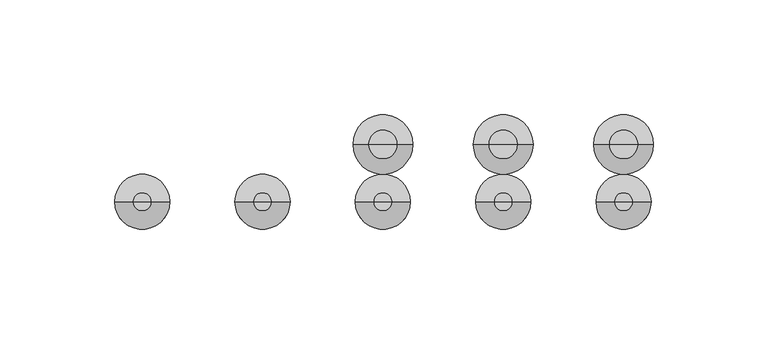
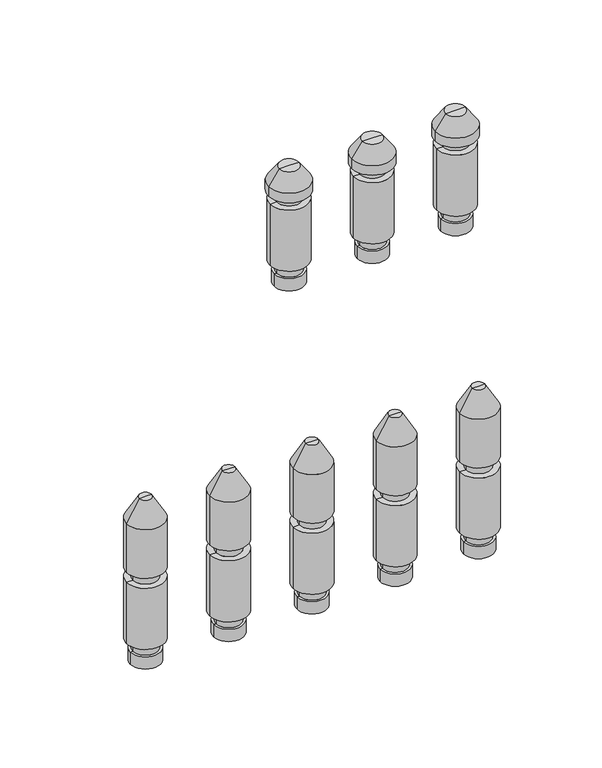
"""IFC4 building model written with IfcOpenShell, lengths in millimetres: valve geometry, PL AT_Manifold_FT-EV : 13 circuits."""

from ifc_helpers import new_model, si_unit, frame, origin, place, context, project, spatial, polyline, circle_curve, source, transform, mapped, element, save
from ifc_brep_helpers import plane_surface, cylinder_surface, revolved_surface, advanced_brep


def valve_cb73cf64(model_context):
    return source(origin(), model_context, "Body", "AdvancedBrep", [
        advanced_brep(
        [(610.0, 0.0, -35.11267), (629.0, 0.0, -35.11267), (619.5, 0.0, -35.11267), (610.0, 0.0, -27.0369646), (629.0, 0.0, -27.0369646), (611.5, 0.0, -27.0369646), (627.5, 0.0, -27.0369646), (611.5, 0.0, -20.330253), (627.5, 0.0, -20.330253), (607.5, 0.0, -20.330253), (631.5, 0.0, -20.330253), (607.5, 0.0, 20.330253), (631.5, 0.0, 20.330253), (611.5, 0.0, 20.330253), (627.5, 0.0, 20.330253), (611.5, 0.0, 27.0474786), (627.5, 0.0, 27.0474786), (607.5, 0.0, 27.0474786), (631.5, 0.0, 27.0474786), (607.5, 0.0, 59.4084325), (631.5, 0.0, 59.4084325), (615.5, 0.0, 73.264839), (623.5, 0.0, 73.264839), (619.5, 0.0, 73.264839)],
        [
            (0, 1, circle_curve(frame((619.5, 0.0, -35.11267), z_axis=(0.0, 0.0, -1.0), x_axis=(1.0, 0.0, 0.0)), 9.5)),
            (1, 2),
            (2, 0),
            (1, 0, circle_curve(frame((619.5, 0.0, -35.11267), z_axis=(0.0, 0.0, -1.0), x_axis=(1.0, 0.0, 0.0)), 9.5)),
            (3, 4, circle_curve(frame((619.5, 0.0, -27.0369646), z_axis=(0.0, 0.0, -1.0), x_axis=(1.0, 0.0, 0.0)), 9.5)),
            (4, 1),
            (0, 3),
            (4, 3, circle_curve(frame((619.5, 0.0, -27.0369646), z_axis=(0.0, 0.0, -1.0), x_axis=(1.0, 0.0, 0.0)), 9.5)),
            (5, 6, circle_curve(frame((619.5, 0.0, -27.0369646), z_axis=(0.0, 0.0, -1.0), x_axis=(1.0, 0.0, 0.0)), 8.0)),
            (6, 4),
            (3, 5),
            (6, 5, circle_curve(frame((619.5, 0.0, -27.0369646), z_axis=(0.0, 0.0, -1.0), x_axis=(1.0, 0.0, 0.0)), 8.0)),
            (7, 8, circle_curve(frame((619.5, 0.0, -20.330253), z_axis=(0.0, 0.0, -1.0), x_axis=(1.0, 0.0, 0.0)), 8.0)),
            (8, 6),
            (5, 7),
            (8, 7, circle_curve(frame((619.5, 0.0, -20.330253), z_axis=(0.0, 0.0, -1.0), x_axis=(1.0, 0.0, 0.0)), 8.0)),
            (9, 10, circle_curve(frame((619.5, 0.0, -20.330253), z_axis=(0.0, 0.0, -1.0), x_axis=(1.0, 0.0, 0.0)), 12.0)),
            (10, 8),
            (7, 9),
            (10, 9, circle_curve(frame((619.5, 0.0, -20.330253), z_axis=(0.0, 0.0, -1.0), x_axis=(1.0, 0.0, 0.0)), 12.0)),
            (11, 12, circle_curve(frame((619.5, 0.0, 20.330253), z_axis=(0.0, 0.0, -1.0), x_axis=(1.0, 0.0, 0.0)), 12.0)),
            (12, 10),
            (9, 11),
            (12, 11, circle_curve(frame((619.5, 0.0, 20.330253), z_axis=(0.0, 0.0, -1.0), x_axis=(1.0, 0.0, 0.0)), 12.0)),
            (13, 14, circle_curve(frame((619.5, 0.0, 20.330253), z_axis=(0.0, 0.0, -1.0), x_axis=(1.0, 0.0, 0.0)), 8.0)),
            (14, 12),
            (11, 13),
            (14, 13, circle_curve(frame((619.5, 0.0, 20.330253), z_axis=(0.0, 0.0, -1.0), x_axis=(1.0, 0.0, 0.0)), 8.0)),
            (15, 16, circle_curve(frame((619.5, 0.0, 27.0474786), z_axis=(0.0, 0.0, -1.0), x_axis=(1.0, 0.0, 0.0)), 8.0)),
            (16, 14),
            (13, 15),
            (16, 15, circle_curve(frame((619.5, 0.0, 27.0474786), z_axis=(0.0, 0.0, -1.0), x_axis=(1.0, 0.0, 0.0)), 8.0)),
            (17, 18, circle_curve(frame((619.5, 0.0, 27.0474786), z_axis=(0.0, 0.0, -1.0), x_axis=(1.0, 0.0, 0.0)), 12.0)),
            (18, 16),
            (15, 17),
            (18, 17, circle_curve(frame((619.5, 0.0, 27.0474786), z_axis=(0.0, 0.0, -1.0), x_axis=(1.0, 0.0, 0.0)), 12.0)),
            (19, 20, circle_curve(frame((619.5, 0.0, 59.4084325), z_axis=(0.0, 0.0, -1.0), x_axis=(1.0, 0.0, 0.0)), 12.0)),
            (20, 18),
            (17, 19),
            (20, 19, circle_curve(frame((619.5, 0.0, 59.4084325), z_axis=(0.0, 0.0, -1.0), x_axis=(1.0, 0.0, 0.0)), 12.0)),
            (21, 22, circle_curve(frame((619.5, 0.0, 73.264839), z_axis=(0.0, 0.0, -1.0), x_axis=(1.0, 0.0, 0.0)), 4.0)),
            (22, 20),
            (19, 21),
            (22, 21, circle_curve(frame((619.5, 0.0, 73.264839), z_axis=(0.0, 0.0, -1.0), x_axis=(1.0, 0.0, 0.0)), 4.0)),
            (23, 22),
            (21, 23),
        ],
        [
            plane_surface(frame((619.5, 0.0, -35.11267), z_axis=(0.0, 0.0, -1.0), x_axis=(1.0, 0.0, 0.0))),
            cylinder_surface(frame((619.5, 0.0, 58.264839), z_axis=(0.0, 0.0, 1.0), x_axis=(1.0, 0.0, 0.0)), 9.5),
            plane_surface(frame((619.5, 0.0, -27.0369646), z_axis=(0.0, 0.0, 1.0), x_axis=(1.0, 0.0, 0.0))),
            cylinder_surface(frame((619.5, 0.0, 58.264839), z_axis=(0.0, 0.0, 1.0), x_axis=(1.0, 0.0, 0.0)), 8.0),
            plane_surface(frame((619.5, 0.0, -20.330253), z_axis=(0.0, 0.0, -1.0), x_axis=(1.0, 0.0, 0.0))),
            cylinder_surface(frame((619.5, 0.0, 58.264839), z_axis=(0.0, 0.0, 1.0), x_axis=(1.0, 0.0, 0.0)), 12.0),
            plane_surface(frame((619.5, 0.0, 20.330253), z_axis=(0.0, 0.0, 1.0), x_axis=(1.0, 0.0, 0.0))),
            plane_surface(frame((619.5, 0.0, 27.0474786), z_axis=(0.0, 0.0, -1.0), x_axis=(1.0, 0.0, 0.0))),
            revolved_surface(polyline([(631.5, 0.0, 59.4084325), (623.5, 0.0, 73.264839)]), (619.5, 0.0, 58.264839), (0.0, 0.0, 1.0)),
            plane_surface(frame((619.5, 0.0, 73.264839), z_axis=(0.0, 0.0, 1.0), x_axis=(1.0, 0.0, 0.0))),
        ],
        [
            (0, [[1, 2, 3]]),
            (0, [[4, -3, -2]]),
            (1, [[5, 6, -1, 7]]),
            (1, [[8, -7, -4, -6]]),
            (2, [[9, 10, -5, 11]]),
            (2, [[12, -11, -8, -10]]),
            (3, [[13, 14, -9, 15]]),
            (3, [[16, -15, -12, -14]]),
            (4, [[17, 18, -13, 19]]),
            (4, [[20, -19, -16, -18]]),
            (5, [[21, 22, -17, 23]]),
            (5, [[24, -23, -20, -22]]),
            (6, [[25, 26, -21, 27]]),
            (6, [[28, -27, -24, -26]]),
            (3, [[29, 30, -25, 31]]),
            (3, [[32, -31, -28, -30]]),
            (7, [[33, 34, -29, 35]]),
            (7, [[36, -35, -32, -34]]),
            (5, [[37, 38, -33, 39]]),
            (5, [[40, -39, -36, -38]]),
            (8, [[41, 42, -37, 43]]),
            (8, [[44, -43, -40, -42]]),
            (9, [[45, -41, 46]]),
            (9, [[-46, -44, -45]]),
        ],
    ),
        advanced_brep(
        [(557.5, 0.0, -35.11267), (576.5, 0.0, -35.11267), (567.0, 0.0, -35.11267), (557.5, 0.0, -27.0369646), (576.5, 0.0, -27.0369646), (559.0, 0.0, -27.0369646), (575.0, 0.0, -27.0369646), (559.0, 0.0, -20.330253), (575.0, 0.0, -20.330253), (555.0, 0.0, -20.330253), (579.0, 0.0, -20.330253), (555.0, 0.0, 20.330253), (579.0, 0.0, 20.330253), (559.0, 0.0, 20.330253), (575.0, 0.0, 20.330253), (559.0, 0.0, 27.0474786), (575.0, 0.0, 27.0474786), (555.0, 0.0, 27.0474786), (579.0, 0.0, 27.0474786), (555.0, 0.0, 59.4084325), (579.0, 0.0, 59.4084325), (563.0, 0.0, 73.264839), (571.0, 0.0, 73.264839), (567.0, 0.0, 73.264839)],
        [
            (0, 1, circle_curve(frame((567.0, 0.0, -35.11267), z_axis=(0.0, 0.0, -1.0), x_axis=(1.0, 0.0, 0.0)), 9.5)),
            (1, 2),
            (2, 0),
            (1, 0, circle_curve(frame((567.0, 0.0, -35.11267), z_axis=(0.0, 0.0, -1.0), x_axis=(1.0, 0.0, 0.0)), 9.5)),
            (3, 4, circle_curve(frame((567.0, 0.0, -27.0369646), z_axis=(0.0, 0.0, -1.0), x_axis=(1.0, 0.0, 0.0)), 9.5)),
            (4, 1),
            (0, 3),
            (4, 3, circle_curve(frame((567.0, 0.0, -27.0369646), z_axis=(0.0, 0.0, -1.0), x_axis=(1.0, 0.0, 0.0)), 9.5)),
            (5, 6, circle_curve(frame((567.0, 0.0, -27.0369646), z_axis=(0.0, 0.0, -1.0), x_axis=(1.0, 0.0, 0.0)), 8.0)),
            (6, 4),
            (3, 5),
            (6, 5, circle_curve(frame((567.0, 0.0, -27.0369646), z_axis=(0.0, 0.0, -1.0), x_axis=(1.0, 0.0, 0.0)), 8.0)),
            (7, 8, circle_curve(frame((567.0, 0.0, -20.330253), z_axis=(0.0, 0.0, -1.0), x_axis=(1.0, 0.0, 0.0)), 8.0)),
            (8, 6),
            (5, 7),
            (8, 7, circle_curve(frame((567.0, 0.0, -20.330253), z_axis=(0.0, 0.0, -1.0), x_axis=(1.0, 0.0, 0.0)), 8.0)),
            (9, 10, circle_curve(frame((567.0, 0.0, -20.330253), z_axis=(0.0, 0.0, -1.0), x_axis=(1.0, 0.0, 0.0)), 12.0)),
            (10, 8),
            (7, 9),
            (10, 9, circle_curve(frame((567.0, 0.0, -20.330253), z_axis=(0.0, 0.0, -1.0), x_axis=(1.0, 0.0, 0.0)), 12.0)),
            (11, 12, circle_curve(frame((567.0, 0.0, 20.330253), z_axis=(0.0, 0.0, -1.0), x_axis=(1.0, 0.0, 0.0)), 12.0)),
            (12, 10),
            (9, 11),
            (12, 11, circle_curve(frame((567.0, 0.0, 20.330253), z_axis=(0.0, 0.0, -1.0), x_axis=(1.0, 0.0, 0.0)), 12.0)),
            (13, 14, circle_curve(frame((567.0, 0.0, 20.330253), z_axis=(0.0, 0.0, -1.0), x_axis=(1.0, 0.0, 0.0)), 8.0)),
            (14, 12),
            (11, 13),
            (14, 13, circle_curve(frame((567.0, 0.0, 20.330253), z_axis=(0.0, 0.0, -1.0), x_axis=(1.0, 0.0, 0.0)), 8.0)),
            (15, 16, circle_curve(frame((567.0, 0.0, 27.0474786), z_axis=(0.0, 0.0, -1.0), x_axis=(1.0, 0.0, 0.0)), 8.0)),
            (16, 14),
            (13, 15),
            (16, 15, circle_curve(frame((567.0, 0.0, 27.0474786), z_axis=(0.0, 0.0, -1.0), x_axis=(1.0, 0.0, 0.0)), 8.0)),
            (17, 18, circle_curve(frame((567.0, 0.0, 27.0474786), z_axis=(0.0, 0.0, -1.0), x_axis=(1.0, 0.0, 0.0)), 12.0)),
            (18, 16),
            (15, 17),
            (18, 17, circle_curve(frame((567.0, 0.0, 27.0474786), z_axis=(0.0, 0.0, -1.0), x_axis=(1.0, 0.0, 0.0)), 12.0)),
            (19, 20, circle_curve(frame((567.0, 0.0, 59.4084325), z_axis=(0.0, 0.0, -1.0), x_axis=(1.0, 0.0, 0.0)), 12.0)),
            (20, 18),
            (17, 19),
            (20, 19, circle_curve(frame((567.0, 0.0, 59.4084325), z_axis=(0.0, 0.0, -1.0), x_axis=(1.0, 0.0, 0.0)), 12.0)),
            (21, 22, circle_curve(frame((567.0, 0.0, 73.264839), z_axis=(0.0, 0.0, -1.0), x_axis=(1.0, 0.0, 0.0)), 4.0)),
            (22, 20),
            (19, 21),
            (22, 21, circle_curve(frame((567.0, 0.0, 73.264839), z_axis=(0.0, 0.0, -1.0), x_axis=(1.0, 0.0, 0.0)), 4.0)),
            (23, 22),
            (21, 23),
        ],
        [
            plane_surface(frame((567.0, 0.0, -35.11267), z_axis=(0.0, 0.0, -1.0), x_axis=(1.0, 0.0, 0.0))),
            cylinder_surface(frame((567.0, 0.0, 58.264839), z_axis=(0.0, 0.0, 1.0), x_axis=(1.0, 0.0, 0.0)), 9.5),
            plane_surface(frame((567.0, 0.0, -27.0369646), z_axis=(0.0, 0.0, 1.0), x_axis=(1.0, 0.0, 0.0))),
            cylinder_surface(frame((567.0, 0.0, 58.264839), z_axis=(0.0, 0.0, 1.0), x_axis=(1.0, 0.0, 0.0)), 8.0),
            plane_surface(frame((567.0, 0.0, -20.330253), z_axis=(0.0, 0.0, -1.0), x_axis=(1.0, 0.0, 0.0))),
            cylinder_surface(frame((567.0, 0.0, 58.264839), z_axis=(0.0, 0.0, 1.0), x_axis=(1.0, 0.0, 0.0)), 12.0),
            plane_surface(frame((567.0, 0.0, 20.330253), z_axis=(0.0, 0.0, 1.0), x_axis=(1.0, 0.0, 0.0))),
            plane_surface(frame((567.0, 0.0, 27.0474786), z_axis=(0.0, 0.0, -1.0), x_axis=(1.0, 0.0, 0.0))),
            revolved_surface(polyline([(579.0, 0.0, 59.4084325), (571.0, 0.0, 73.264839)]), (567.0, 0.0, 58.264839), (0.0, 0.0, 1.0)),
            plane_surface(frame((567.0, 0.0, 73.264839), z_axis=(0.0, 0.0, 1.0), x_axis=(1.0, 0.0, 0.0))),
        ],
        [
            (0, [[1, 2, 3]]),
            (0, [[4, -3, -2]]),
            (1, [[5, 6, -1, 7]]),
            (1, [[8, -7, -4, -6]]),
            (2, [[9, 10, -5, 11]]),
            (2, [[12, -11, -8, -10]]),
            (3, [[13, 14, -9, 15]]),
            (3, [[16, -15, -12, -14]]),
            (4, [[17, 18, -13, 19]]),
            (4, [[20, -19, -16, -18]]),
            (5, [[21, 22, -17, 23]]),
            (5, [[24, -23, -20, -22]]),
            (6, [[25, 26, -21, 27]]),
            (6, [[28, -27, -24, -26]]),
            (3, [[29, 30, -25, 31]]),
            (3, [[32, -31, -28, -30]]),
            (7, [[33, 34, -29, 35]]),
            (7, [[36, -35, -32, -34]]),
            (5, [[37, 38, -33, 39]]),
            (5, [[40, -39, -36, -38]]),
            (8, [[41, 42, -37, 43]]),
            (8, [[44, -43, -40, -42]]),
            (9, [[45, -41, 46]]),
            (9, [[-46, -44, -45]]),
        ],
    ),
        advanced_brep(
        [(505.0, 0.0, -35.11267), (524.0, 0.0, -35.11267), (514.5, 0.0, -35.11267), (505.0, 0.0, -27.0369646), (524.0, 0.0, -27.0369646), (506.5, 0.0, -27.0369646), (522.5, 0.0, -27.0369646), (506.5, 0.0, -20.330253), (522.5, 0.0, -20.330253), (502.5, 0.0, -20.330253), (526.5, 0.0, -20.330253), (502.5, 0.0, 20.330253), (526.5, 0.0, 20.330253), (506.5, 0.0, 20.330253), (522.5, 0.0, 20.330253), (506.5, 0.0, 27.0474786), (522.5, 0.0, 27.0474786), (502.5, 0.0, 27.0474786), (526.5, 0.0, 27.0474786), (502.5, 0.0, 59.4084325), (526.5, 0.0, 59.4084325), (510.5, 0.0, 73.264839), (518.5, 0.0, 73.264839), (514.5, 0.0, 73.264839)],
        [
            (0, 1, circle_curve(frame((514.5, 0.0, -35.11267), z_axis=(0.0, 0.0, -1.0), x_axis=(1.0, 0.0, 0.0)), 9.5)),
            (1, 2),
            (2, 0),
            (1, 0, circle_curve(frame((514.5, 0.0, -35.11267), z_axis=(0.0, 0.0, -1.0), x_axis=(1.0, 0.0, 0.0)), 9.5)),
            (3, 4, circle_curve(frame((514.5, 0.0, -27.0369646), z_axis=(0.0, 0.0, -1.0), x_axis=(1.0, 0.0, 0.0)), 9.5)),
            (4, 1),
            (0, 3),
            (4, 3, circle_curve(frame((514.5, 0.0, -27.0369646), z_axis=(0.0, 0.0, -1.0), x_axis=(1.0, 0.0, 0.0)), 9.5)),
            (5, 6, circle_curve(frame((514.5, 0.0, -27.0369646), z_axis=(0.0, 0.0, -1.0), x_axis=(1.0, 0.0, 0.0)), 8.0)),
            (6, 4),
            (3, 5),
            (6, 5, circle_curve(frame((514.5, 0.0, -27.0369646), z_axis=(0.0, 0.0, -1.0), x_axis=(1.0, 0.0, 0.0)), 8.0)),
            (7, 8, circle_curve(frame((514.5, 0.0, -20.330253), z_axis=(0.0, 0.0, -1.0), x_axis=(1.0, 0.0, 0.0)), 8.0)),
            (8, 6),
            (5, 7),
            (8, 7, circle_curve(frame((514.5, 0.0, -20.330253), z_axis=(0.0, 0.0, -1.0), x_axis=(1.0, 0.0, 0.0)), 8.0)),
            (9, 10, circle_curve(frame((514.5, 0.0, -20.330253), z_axis=(0.0, 0.0, -1.0), x_axis=(1.0, 0.0, 0.0)), 12.0)),
            (10, 8),
            (7, 9),
            (10, 9, circle_curve(frame((514.5, 0.0, -20.330253), z_axis=(0.0, 0.0, -1.0), x_axis=(1.0, 0.0, 0.0)), 12.0)),
            (11, 12, circle_curve(frame((514.5, 0.0, 20.330253), z_axis=(0.0, 0.0, -1.0), x_axis=(1.0, 0.0, 0.0)), 12.0)),
            (12, 10),
            (9, 11),
            (12, 11, circle_curve(frame((514.5, 0.0, 20.330253), z_axis=(0.0, 0.0, -1.0), x_axis=(1.0, 0.0, 0.0)), 12.0)),
            (13, 14, circle_curve(frame((514.5, 0.0, 20.330253), z_axis=(0.0, 0.0, -1.0), x_axis=(1.0, 0.0, 0.0)), 8.0)),
            (14, 12),
            (11, 13),
            (14, 13, circle_curve(frame((514.5, 0.0, 20.330253), z_axis=(0.0, 0.0, -1.0), x_axis=(1.0, 0.0, 0.0)), 8.0)),
            (15, 16, circle_curve(frame((514.5, 0.0, 27.0474786), z_axis=(0.0, 0.0, -1.0), x_axis=(1.0, 0.0, 0.0)), 8.0)),
            (16, 14),
            (13, 15),
            (16, 15, circle_curve(frame((514.5, 0.0, 27.0474786), z_axis=(0.0, 0.0, -1.0), x_axis=(1.0, 0.0, 0.0)), 8.0)),
            (17, 18, circle_curve(frame((514.5, 0.0, 27.0474786), z_axis=(0.0, 0.0, -1.0), x_axis=(1.0, 0.0, 0.0)), 12.0)),
            (18, 16),
            (15, 17),
            (18, 17, circle_curve(frame((514.5, 0.0, 27.0474786), z_axis=(0.0, 0.0, -1.0), x_axis=(1.0, 0.0, 0.0)), 12.0)),
            (19, 20, circle_curve(frame((514.5, 0.0, 59.4084325), z_axis=(0.0, 0.0, -1.0), x_axis=(1.0, 0.0, 0.0)), 12.0)),
            (20, 18),
            (17, 19),
            (20, 19, circle_curve(frame((514.5, 0.0, 59.4084325), z_axis=(0.0, 0.0, -1.0), x_axis=(1.0, 0.0, 0.0)), 12.0)),
            (21, 22, circle_curve(frame((514.5, 0.0, 73.264839), z_axis=(0.0, 0.0, -1.0), x_axis=(1.0, 0.0, 0.0)), 4.0)),
            (22, 20),
            (19, 21),
            (22, 21, circle_curve(frame((514.5, 0.0, 73.264839), z_axis=(0.0, 0.0, -1.0), x_axis=(1.0, 0.0, 0.0)), 4.0)),
            (23, 22),
            (21, 23),
        ],
        [
            plane_surface(frame((514.5, 0.0, -35.11267), z_axis=(0.0, 0.0, -1.0), x_axis=(1.0, 0.0, 0.0))),
            cylinder_surface(frame((514.5, 0.0, 58.264839), z_axis=(0.0, 0.0, 1.0), x_axis=(1.0, 0.0, 0.0)), 9.5),
            plane_surface(frame((514.5, 0.0, -27.0369646), z_axis=(0.0, 0.0, 1.0), x_axis=(1.0, 0.0, 0.0))),
            cylinder_surface(frame((514.5, 0.0, 58.264839), z_axis=(0.0, 0.0, 1.0), x_axis=(1.0, 0.0, 0.0)), 8.0),
            plane_surface(frame((514.5, 0.0, -20.330253), z_axis=(0.0, 0.0, -1.0), x_axis=(1.0, 0.0, 0.0))),
            cylinder_surface(frame((514.5, 0.0, 58.264839), z_axis=(0.0, 0.0, 1.0), x_axis=(1.0, 0.0, 0.0)), 12.0),
            plane_surface(frame((514.5, 0.0, 20.330253), z_axis=(0.0, 0.0, 1.0), x_axis=(1.0, 0.0, 0.0))),
            plane_surface(frame((514.5, 0.0, 27.0474786), z_axis=(0.0, 0.0, -1.0), x_axis=(1.0, 0.0, 0.0))),
            revolved_surface(polyline([(526.5, 0.0, 59.4084325), (518.5, 0.0, 73.264839)]), (514.5, 0.0, 58.264839), (0.0, 0.0, 1.0)),
            plane_surface(frame((514.5, 0.0, 73.264839), z_axis=(0.0, 0.0, 1.0), x_axis=(1.0, 0.0, 0.0))),
        ],
        [
            (0, [[1, 2, 3]]),
            (0, [[4, -3, -2]]),
            (1, [[5, 6, -1, 7]]),
            (1, [[8, -7, -4, -6]]),
            (2, [[9, 10, -5, 11]]),
            (2, [[12, -11, -8, -10]]),
            (3, [[13, 14, -9, 15]]),
            (3, [[16, -15, -12, -14]]),
            (4, [[17, 18, -13, 19]]),
            (4, [[20, -19, -16, -18]]),
            (5, [[21, 22, -17, 23]]),
            (5, [[24, -23, -20, -22]]),
            (6, [[25, 26, -21, 27]]),
            (6, [[28, -27, -24, -26]]),
            (3, [[29, 30, -25, 31]]),
            (3, [[32, -31, -28, -30]]),
            (7, [[33, 34, -29, 35]]),
            (7, [[36, -35, -32, -34]]),
            (5, [[37, 38, -33, 39]]),
            (5, [[40, -39, -36, -38]]),
            (8, [[41, 42, -37, 43]]),
            (8, [[44, -43, -40, -42]]),
            (9, [[45, -41, 46]]),
            (9, [[-46, -44, -45]]),
        ],
    ),
        advanced_brep(
        [(452.5, 0.0, -35.11267), (471.5, 0.0, -35.11267), (462.0, 0.0, -35.11267), (452.5, 0.0, -27.0369646), (471.5, 0.0, -27.0369646), (454.0, 0.0, -27.0369646), (470.0, 0.0, -27.0369646), (454.0, 0.0, -20.330253), (470.0, 0.0, -20.330253), (450.0, 0.0, -20.330253), (474.0, 0.0, -20.330253), (450.0, 0.0, 20.330253), (474.0, 0.0, 20.330253), (454.0, 0.0, 20.330253), (470.0, 0.0, 20.330253), (454.0, 0.0, 27.0474786), (470.0, 0.0, 27.0474786), (450.0, 0.0, 27.0474786), (474.0, 0.0, 27.0474786), (450.0, 0.0, 59.4084325), (474.0, 0.0, 59.4084325), (458.0, 0.0, 73.264839), (466.0, 0.0, 73.264839), (462.0, 0.0, 73.264839)],
        [
            (0, 1, circle_curve(frame((462.0, 0.0, -35.11267), z_axis=(0.0, 0.0, -1.0), x_axis=(1.0, 0.0, 0.0)), 9.5)),
            (1, 2),
            (2, 0),
            (1, 0, circle_curve(frame((462.0, 0.0, -35.11267), z_axis=(0.0, 0.0, -1.0), x_axis=(1.0, 0.0, 0.0)), 9.5)),
            (3, 4, circle_curve(frame((462.0, 0.0, -27.0369646), z_axis=(0.0, 0.0, -1.0), x_axis=(1.0, 0.0, 0.0)), 9.5)),
            (4, 1),
            (0, 3),
            (4, 3, circle_curve(frame((462.0, 0.0, -27.0369646), z_axis=(0.0, 0.0, -1.0), x_axis=(1.0, 0.0, 0.0)), 9.5)),
            (5, 6, circle_curve(frame((462.0, 0.0, -27.0369646), z_axis=(0.0, 0.0, -1.0), x_axis=(1.0, 0.0, 0.0)), 8.0)),
            (6, 4),
            (3, 5),
            (6, 5, circle_curve(frame((462.0, 0.0, -27.0369646), z_axis=(0.0, 0.0, -1.0), x_axis=(1.0, 0.0, 0.0)), 8.0)),
            (7, 8, circle_curve(frame((462.0, 0.0, -20.330253), z_axis=(0.0, 0.0, -1.0), x_axis=(1.0, 0.0, 0.0)), 8.0)),
            (8, 6),
            (5, 7),
            (8, 7, circle_curve(frame((462.0, 0.0, -20.330253), z_axis=(0.0, 0.0, -1.0), x_axis=(1.0, 0.0, 0.0)), 8.0)),
            (9, 10, circle_curve(frame((462.0, 0.0, -20.330253), z_axis=(0.0, 0.0, -1.0), x_axis=(1.0, 0.0, 0.0)), 12.0)),
            (10, 8),
            (7, 9),
            (10, 9, circle_curve(frame((462.0, 0.0, -20.330253), z_axis=(0.0, 0.0, -1.0), x_axis=(1.0, 0.0, 0.0)), 12.0)),
            (11, 12, circle_curve(frame((462.0, 0.0, 20.330253), z_axis=(0.0, 0.0, -1.0), x_axis=(1.0, 0.0, 0.0)), 12.0)),
            (12, 10),
            (9, 11),
            (12, 11, circle_curve(frame((462.0, 0.0, 20.330253), z_axis=(0.0, 0.0, -1.0), x_axis=(1.0, 0.0, 0.0)), 12.0)),
            (13, 14, circle_curve(frame((462.0, 0.0, 20.330253), z_axis=(0.0, 0.0, -1.0), x_axis=(1.0, 0.0, 0.0)), 8.0)),
            (14, 12),
            (11, 13),
            (14, 13, circle_curve(frame((462.0, 0.0, 20.330253), z_axis=(0.0, 0.0, -1.0), x_axis=(1.0, 0.0, 0.0)), 8.0)),
            (15, 16, circle_curve(frame((462.0, 0.0, 27.0474786), z_axis=(0.0, 0.0, -1.0), x_axis=(1.0, 0.0, 0.0)), 8.0)),
            (16, 14),
            (13, 15),
            (16, 15, circle_curve(frame((462.0, 0.0, 27.0474786), z_axis=(0.0, 0.0, -1.0), x_axis=(1.0, 0.0, 0.0)), 8.0)),
            (17, 18, circle_curve(frame((462.0, 0.0, 27.0474786), z_axis=(0.0, 0.0, -1.0), x_axis=(1.0, 0.0, 0.0)), 12.0)),
            (18, 16),
            (15, 17),
            (18, 17, circle_curve(frame((462.0, 0.0, 27.0474786), z_axis=(0.0, 0.0, -1.0), x_axis=(1.0, 0.0, 0.0)), 12.0)),
            (19, 20, circle_curve(frame((462.0, 0.0, 59.4084325), z_axis=(0.0, 0.0, -1.0), x_axis=(1.0, 0.0, 0.0)), 12.0)),
            (20, 18),
            (17, 19),
            (20, 19, circle_curve(frame((462.0, 0.0, 59.4084325), z_axis=(0.0, 0.0, -1.0), x_axis=(1.0, 0.0, 0.0)), 12.0)),
            (21, 22, circle_curve(frame((462.0, 0.0, 73.264839), z_axis=(0.0, 0.0, -1.0), x_axis=(1.0, 0.0, 0.0)), 4.0)),
            (22, 20),
            (19, 21),
            (22, 21, circle_curve(frame((462.0, 0.0, 73.264839), z_axis=(0.0, 0.0, -1.0), x_axis=(1.0, 0.0, 0.0)), 4.0)),
            (23, 22),
            (21, 23),
        ],
        [
            plane_surface(frame((462.0, 0.0, -35.11267), z_axis=(0.0, 0.0, -1.0), x_axis=(1.0, 0.0, 0.0))),
            cylinder_surface(frame((462.0, 0.0, 58.264839), z_axis=(0.0, 0.0, 1.0), x_axis=(1.0, 0.0, 0.0)), 9.5),
            plane_surface(frame((462.0, 0.0, -27.0369646), z_axis=(0.0, 0.0, 1.0), x_axis=(1.0, 0.0, 0.0))),
            cylinder_surface(frame((462.0, 0.0, 58.264839), z_axis=(0.0, 0.0, 1.0), x_axis=(1.0, 0.0, 0.0)), 8.0),
            plane_surface(frame((462.0, 0.0, -20.330253), z_axis=(0.0, 0.0, -1.0), x_axis=(1.0, 0.0, 0.0))),
            cylinder_surface(frame((462.0, 0.0, 58.264839), z_axis=(0.0, 0.0, 1.0), x_axis=(1.0, 0.0, 0.0)), 12.0),
            plane_surface(frame((462.0, 0.0, 20.330253), z_axis=(0.0, 0.0, 1.0), x_axis=(1.0, 0.0, 0.0))),
            plane_surface(frame((462.0, 0.0, 27.0474786), z_axis=(0.0, 0.0, -1.0), x_axis=(1.0, 0.0, 0.0))),
            revolved_surface(polyline([(474.0, 0.0, 59.4084325), (466.0, 0.0, 73.264839)]), (462.0, 0.0, 58.264839), (0.0, 0.0, 1.0)),
            plane_surface(frame((462.0, 0.0, 73.264839), z_axis=(0.0, 0.0, 1.0), x_axis=(1.0, 0.0, 0.0))),
        ],
        [
            (0, [[1, 2, 3]]),
            (0, [[4, -3, -2]]),
            (1, [[5, 6, -1, 7]]),
            (1, [[8, -7, -4, -6]]),
            (2, [[9, 10, -5, 11]]),
            (2, [[12, -11, -8, -10]]),
            (3, [[13, 14, -9, 15]]),
            (3, [[16, -15, -12, -14]]),
            (4, [[17, 18, -13, 19]]),
            (4, [[20, -19, -16, -18]]),
            (5, [[21, 22, -17, 23]]),
            (5, [[24, -23, -20, -22]]),
            (6, [[25, 26, -21, 27]]),
            (6, [[28, -27, -24, -26]]),
            (3, [[29, 30, -25, 31]]),
            (3, [[32, -31, -28, -30]]),
            (7, [[33, 34, -29, 35]]),
            (7, [[36, -35, -32, -34]]),
            (5, [[37, 38, -33, 39]]),
            (5, [[40, -39, -36, -38]]),
            (8, [[41, 42, -37, 43]]),
            (8, [[44, -43, -40, -42]]),
            (9, [[45, -41, 46]]),
            (9, [[-46, -44, -45]]),
        ],
    ),
        advanced_brep(
        [(400.0, 0.0, -35.11267), (419.0, 0.0, -35.11267), (409.5, 0.0, -35.11267), (400.0, 0.0, -27.0369646), (419.0, 0.0, -27.0369646), (401.5, 0.0, -27.0369646), (417.5, 0.0, -27.0369646), (401.5, 0.0, -20.330253), (417.5, 0.0, -20.330253), (397.5, 0.0, -20.330253), (421.5, 0.0, -20.330253), (397.5, 0.0, 20.330253), (421.5, 0.0, 20.330253), (401.5, 0.0, 20.330253), (417.5, 0.0, 20.330253), (401.5, 0.0, 27.0474786), (417.5, 0.0, 27.0474786), (397.5, 0.0, 27.0474786), (421.5, 0.0, 27.0474786), (397.5, 0.0, 59.4084325), (421.5, 0.0, 59.4084325), (405.5, 0.0, 73.264839), (413.5, 0.0, 73.264839), (409.5, 0.0, 73.264839)],
        [
            (0, 1, circle_curve(frame((409.5, 0.0, -35.11267), z_axis=(0.0, 0.0, -1.0), x_axis=(1.0, 0.0, 0.0)), 9.5)),
            (1, 2),
            (2, 0),
            (1, 0, circle_curve(frame((409.5, 0.0, -35.11267), z_axis=(0.0, 0.0, -1.0), x_axis=(1.0, 0.0, 0.0)), 9.5)),
            (3, 4, circle_curve(frame((409.5, 0.0, -27.0369646), z_axis=(0.0, 0.0, -1.0), x_axis=(1.0, 0.0, 0.0)), 9.5)),
            (4, 1),
            (0, 3),
            (4, 3, circle_curve(frame((409.5, 0.0, -27.0369646), z_axis=(0.0, 0.0, -1.0), x_axis=(1.0, 0.0, 0.0)), 9.5)),
            (5, 6, circle_curve(frame((409.5, 0.0, -27.0369646), z_axis=(0.0, 0.0, -1.0), x_axis=(1.0, 0.0, 0.0)), 8.0)),
            (6, 4),
            (3, 5),
            (6, 5, circle_curve(frame((409.5, 0.0, -27.0369646), z_axis=(0.0, 0.0, -1.0), x_axis=(1.0, 0.0, 0.0)), 8.0)),
            (7, 8, circle_curve(frame((409.5, 0.0, -20.330253), z_axis=(0.0, 0.0, -1.0), x_axis=(1.0, 0.0, 0.0)), 8.0)),
            (8, 6),
            (5, 7),
            (8, 7, circle_curve(frame((409.5, 0.0, -20.330253), z_axis=(0.0, 0.0, -1.0), x_axis=(1.0, 0.0, 0.0)), 8.0)),
            (9, 10, circle_curve(frame((409.5, 0.0, -20.330253), z_axis=(0.0, 0.0, -1.0), x_axis=(1.0, 0.0, 0.0)), 12.0)),
            (10, 8),
            (7, 9),
            (10, 9, circle_curve(frame((409.5, 0.0, -20.330253), z_axis=(0.0, 0.0, -1.0), x_axis=(1.0, 0.0, 0.0)), 12.0)),
            (11, 12, circle_curve(frame((409.5, 0.0, 20.330253), z_axis=(0.0, 0.0, -1.0), x_axis=(1.0, 0.0, 0.0)), 12.0)),
            (12, 10),
            (9, 11),
            (12, 11, circle_curve(frame((409.5, 0.0, 20.330253), z_axis=(0.0, 0.0, -1.0), x_axis=(1.0, 0.0, 0.0)), 12.0)),
            (13, 14, circle_curve(frame((409.5, 0.0, 20.330253), z_axis=(0.0, 0.0, -1.0), x_axis=(1.0, 0.0, 0.0)), 8.0)),
            (14, 12),
            (11, 13),
            (14, 13, circle_curve(frame((409.5, 0.0, 20.330253), z_axis=(0.0, 0.0, -1.0), x_axis=(1.0, 0.0, 0.0)), 8.0)),
            (15, 16, circle_curve(frame((409.5, 0.0, 27.0474786), z_axis=(0.0, 0.0, -1.0), x_axis=(1.0, 0.0, 0.0)), 8.0)),
            (16, 14),
            (13, 15),
            (16, 15, circle_curve(frame((409.5, 0.0, 27.0474786), z_axis=(0.0, 0.0, -1.0), x_axis=(1.0, 0.0, 0.0)), 8.0)),
            (17, 18, circle_curve(frame((409.5, 0.0, 27.0474786), z_axis=(0.0, 0.0, -1.0), x_axis=(1.0, 0.0, 0.0)), 12.0)),
            (18, 16),
            (15, 17),
            (18, 17, circle_curve(frame((409.5, 0.0, 27.0474786), z_axis=(0.0, 0.0, -1.0), x_axis=(1.0, 0.0, 0.0)), 12.0)),
            (19, 20, circle_curve(frame((409.5, 0.0, 59.4084325), z_axis=(0.0, 0.0, -1.0), x_axis=(1.0, 0.0, 0.0)), 12.0)),
            (20, 18),
            (17, 19),
            (20, 19, circle_curve(frame((409.5, 0.0, 59.4084325), z_axis=(0.0, 0.0, -1.0), x_axis=(1.0, 0.0, 0.0)), 12.0)),
            (21, 22, circle_curve(frame((409.5, 0.0, 73.264839), z_axis=(0.0, 0.0, -1.0), x_axis=(1.0, 0.0, 0.0)), 4.0)),
            (22, 20),
            (19, 21),
            (22, 21, circle_curve(frame((409.5, 0.0, 73.264839), z_axis=(0.0, 0.0, -1.0), x_axis=(1.0, 0.0, 0.0)), 4.0)),
            (23, 22),
            (21, 23),
        ],
        [
            plane_surface(frame((409.5, 0.0, -35.11267), z_axis=(0.0, 0.0, -1.0), x_axis=(1.0, 0.0, 0.0))),
            cylinder_surface(frame((409.5, 0.0, 58.264839), z_axis=(0.0, 0.0, 1.0), x_axis=(1.0, 0.0, 0.0)), 9.5),
            plane_surface(frame((409.5, 0.0, -27.0369646), z_axis=(0.0, 0.0, 1.0), x_axis=(1.0, 0.0, 0.0))),
            cylinder_surface(frame((409.5, 0.0, 58.264839), z_axis=(0.0, 0.0, 1.0), x_axis=(1.0, 0.0, 0.0)), 8.0),
            plane_surface(frame((409.5, 0.0, -20.330253), z_axis=(0.0, 0.0, -1.0), x_axis=(1.0, 0.0, 0.0))),
            cylinder_surface(frame((409.5, 0.0, 58.264839), z_axis=(0.0, 0.0, 1.0), x_axis=(1.0, 0.0, 0.0)), 12.0),
            plane_surface(frame((409.5, 0.0, 20.330253), z_axis=(0.0, 0.0, 1.0), x_axis=(1.0, 0.0, 0.0))),
            plane_surface(frame((409.5, 0.0, 27.0474786), z_axis=(0.0, 0.0, -1.0), x_axis=(1.0, 0.0, 0.0))),
            revolved_surface(polyline([(421.5, 0.0, 59.4084325), (413.5, 0.0, 73.264839)]), (409.5, 0.0, 58.264839), (0.0, 0.0, 1.0)),
            plane_surface(frame((409.5, 0.0, 73.264839), z_axis=(0.0, 0.0, 1.0), x_axis=(1.0, 0.0, 0.0))),
        ],
        [
            (0, [[1, 2, 3]]),
            (0, [[4, -3, -2]]),
            (1, [[5, 6, -1, 7]]),
            (1, [[8, -7, -4, -6]]),
            (2, [[9, 10, -5, 11]]),
            (2, [[12, -11, -8, -10]]),
            (3, [[13, 14, -9, 15]]),
            (3, [[16, -15, -12, -14]]),
            (4, [[17, 18, -13, 19]]),
            (4, [[20, -19, -16, -18]]),
            (5, [[21, 22, -17, 23]]),
            (5, [[24, -23, -20, -22]]),
            (6, [[25, 26, -21, 27]]),
            (6, [[28, -27, -24, -26]]),
            (3, [[29, 30, -25, 31]]),
            (3, [[32, -31, -28, -30]]),
            (7, [[33, 34, -29, 35]]),
            (7, [[36, -35, -32, -34]]),
            (5, [[37, 38, -33, 39]]),
            (5, [[40, -39, -36, -38]]),
            (8, [[41, 42, -37, 43]]),
            (8, [[44, -43, -40, -42]]),
            (9, [[45, -41, 46]]),
            (9, [[-46, -44, -45]]),
        ],
    ),
        advanced_brep(
        [(610.0, 25.0, 164.88733), (629.0, 25.0, 164.88733), (619.5, 25.0, 164.88733), (610.0, 25.0, 172.9630354), (629.0, 25.0, 172.9630354), (611.5, 25.0, 172.9630354), (627.5, 25.0, 172.9630354), (611.5, 25.0, 179.669747), (627.5, 25.0, 179.669747), (607.5, 25.0, 179.669747), (631.5, 25.0, 179.669747), (607.5, 25.0, 220.330253), (631.5, 25.0, 220.330253), (611.5, 25.0, 220.330253), (627.5, 25.0, 220.330253), (611.5, 25.0, 226.0474786), (627.5, 25.0, 226.0474786), (606.5, 25.0, 226.0474786), (632.5, 25.0, 226.0474786), (606.5, 25.0, 232.337955), (632.5, 25.0, 232.337955), (613.1551779, 25.0, 241.842534), (625.8448221, 25.0, 241.842534), (619.5, 25.0, 241.842534)],
        [
            (0, 1, circle_curve(frame((619.5, 25.0, 164.88733), z_axis=(0.0, 0.0, -1.0), x_axis=(1.0, 0.0, 0.0)), 9.5)),
            (1, 2),
            (2, 0),
            (1, 0, circle_curve(frame((619.5, 25.0, 164.88733), z_axis=(0.0, 0.0, -1.0), x_axis=(1.0, 0.0, 0.0)), 9.5)),
            (3, 4, circle_curve(frame((619.5, 25.0, 172.9630354), z_axis=(0.0, 0.0, -1.0), x_axis=(1.0, 0.0, 0.0)), 9.5)),
            (4, 1),
            (0, 3),
            (4, 3, circle_curve(frame((619.5, 25.0, 172.9630354), z_axis=(0.0, 0.0, -1.0), x_axis=(1.0, 0.0, 0.0)), 9.5)),
            (5, 6, circle_curve(frame((619.5, 25.0, 172.9630354), z_axis=(0.0, 0.0, -1.0), x_axis=(1.0, 0.0, 0.0)), 8.0)),
            (6, 4),
            (3, 5),
            (6, 5, circle_curve(frame((619.5, 25.0, 172.9630354), z_axis=(0.0, 0.0, -1.0), x_axis=(1.0, 0.0, 0.0)), 8.0)),
            (7, 8, circle_curve(frame((619.5, 25.0, 179.669747), z_axis=(0.0, 0.0, -1.0), x_axis=(1.0, 0.0, 0.0)), 8.0)),
            (8, 6),
            (5, 7),
            (8, 7, circle_curve(frame((619.5, 25.0, 179.669747), z_axis=(0.0, 0.0, -1.0), x_axis=(1.0, 0.0, 0.0)), 8.0)),
            (9, 10, circle_curve(frame((619.5, 25.0, 179.669747), z_axis=(0.0, 0.0, -1.0), x_axis=(1.0, 0.0, 0.0)), 12.0)),
            (10, 8),
            (7, 9),
            (10, 9, circle_curve(frame((619.5, 25.0, 179.669747), z_axis=(0.0, 0.0, -1.0), x_axis=(1.0, 0.0, 0.0)), 12.0)),
            (11, 12, circle_curve(frame((619.5, 25.0, 220.330253), z_axis=(0.0, 0.0, -1.0), x_axis=(1.0, 0.0, 0.0)), 12.0)),
            (12, 10),
            (9, 11),
            (12, 11, circle_curve(frame((619.5, 25.0, 220.330253), z_axis=(0.0, 0.0, -1.0), x_axis=(1.0, 0.0, 0.0)), 12.0)),
            (13, 14, circle_curve(frame((619.5, 25.0, 220.330253), z_axis=(0.0, 0.0, -1.0), x_axis=(1.0, 0.0, 0.0)), 8.0)),
            (14, 12),
            (11, 13),
            (14, 13, circle_curve(frame((619.5, 25.0, 220.330253), z_axis=(0.0, 0.0, -1.0), x_axis=(1.0, 0.0, 0.0)), 8.0)),
            (15, 16, circle_curve(frame((619.5, 25.0, 226.0474786), z_axis=(0.0, 0.0, -1.0), x_axis=(1.0, 0.0, 0.0)), 8.0)),
            (16, 14),
            (13, 15),
            (16, 15, circle_curve(frame((619.5, 25.0, 226.0474786), z_axis=(0.0, 0.0, -1.0), x_axis=(1.0, 0.0, 0.0)), 8.0)),
            (17, 18, circle_curve(frame((619.5, 25.0, 226.0474786), z_axis=(0.0, 0.0, -1.0), x_axis=(1.0, 0.0, 0.0)), 13.0)),
            (18, 16),
            (15, 17),
            (18, 17, circle_curve(frame((619.5, 25.0, 226.0474786), z_axis=(0.0, 0.0, -1.0), x_axis=(1.0, 0.0, 0.0)), 13.0)),
            (19, 20, circle_curve(frame((619.5, 25.0, 232.337955), z_axis=(0.0, 0.0, -1.0), x_axis=(1.0, 0.0, 0.0)), 13.0)),
            (20, 18),
            (17, 19),
            (20, 19, circle_curve(frame((619.5, 25.0, 232.337955), z_axis=(0.0, 0.0, -1.0), x_axis=(1.0, 0.0, 0.0)), 13.0)),
            (21, 22, circle_curve(frame((619.5, 25.0, 241.842534), z_axis=(0.0, 0.0, -1.0), x_axis=(1.0, 0.0, 0.0)), 6.3448221)),
            (22, 20),
            (19, 21),
            (22, 21, circle_curve(frame((619.5, 25.0, 241.842534), z_axis=(0.0, 0.0, -1.0), x_axis=(1.0, 0.0, 0.0)), 6.3448221)),
            (23, 22),
            (21, 23),
        ],
        [
            plane_surface(frame((619.5, 25.0, 164.88733), z_axis=(0.0, 0.0, -1.0), x_axis=(1.0, 0.0, 0.0))),
            cylinder_surface(frame((619.5, 25.0, 237.7026565), z_axis=(0.0, 0.0, 1.0), x_axis=(1.0, 0.0, 0.0)), 9.5),
            plane_surface(frame((619.5, 25.0, 172.9630354), z_axis=(0.0, 0.0, 1.0), x_axis=(1.0, 0.0, 0.0))),
            cylinder_surface(frame((619.5, 25.0, 237.7026565), z_axis=(0.0, 0.0, 1.0), x_axis=(1.0, 0.0, 0.0)), 8.0),
            plane_surface(frame((619.5, 25.0, 179.669747), z_axis=(0.0, 0.0, -1.0), x_axis=(1.0, 0.0, 0.0))),
            cylinder_surface(frame((619.5, 25.0, 237.7026565), z_axis=(0.0, 0.0, 1.0), x_axis=(1.0, 0.0, 0.0)), 12.0),
            plane_surface(frame((619.5, 25.0, 220.330253), z_axis=(0.0, 0.0, 1.0), x_axis=(1.0, 0.0, 0.0))),
            plane_surface(frame((619.5, 25.0, 226.0474786), z_axis=(0.0, 0.0, -1.0), x_axis=(1.0, 0.0, 0.0))),
            cylinder_surface(frame((619.5, 25.0, 237.7026565), z_axis=(0.0, 0.0, 1.0), x_axis=(1.0, 0.0, 0.0)), 13.0),
            revolved_surface(polyline([(632.5, 25.0, 232.337955), (625.8448221, 25.0, 241.842534)]), (619.5, 25.0, 237.7026565), (0.0, 0.0, 1.0)),
            plane_surface(frame((619.5, 25.0, 241.842534), z_axis=(0.0, 0.0, 1.0), x_axis=(1.0, 0.0, 0.0))),
        ],
        [
            (0, [[1, 2, 3]]),
            (0, [[4, -3, -2]]),
            (1, [[5, 6, -1, 7]]),
            (1, [[8, -7, -4, -6]]),
            (2, [[9, 10, -5, 11]]),
            (2, [[12, -11, -8, -10]]),
            (3, [[13, 14, -9, 15]]),
            (3, [[16, -15, -12, -14]]),
            (4, [[17, 18, -13, 19]]),
            (4, [[20, -19, -16, -18]]),
            (5, [[21, 22, -17, 23]]),
            (5, [[24, -23, -20, -22]]),
            (6, [[25, 26, -21, 27]]),
            (6, [[28, -27, -24, -26]]),
            (3, [[29, 30, -25, 31]]),
            (3, [[32, -31, -28, -30]]),
            (7, [[33, 34, -29, 35]]),
            (7, [[36, -35, -32, -34]]),
            (8, [[37, 38, -33, 39]]),
            (8, [[40, -39, -36, -38]]),
            (9, [[41, 42, -37, 43]]),
            (9, [[44, -43, -40, -42]]),
            (10, [[45, -41, 46]]),
            (10, [[-46, -44, -45]]),
        ],
    ),
        advanced_brep(
        [(557.5, 25.0, 164.88733), (576.5, 25.0, 164.88733), (567.0, 25.0, 164.88733), (557.5, 25.0, 172.9630354), (576.5, 25.0, 172.9630354), (559.0, 25.0, 172.9630354), (575.0, 25.0, 172.9630354), (559.0, 25.0, 179.669747), (575.0, 25.0, 179.669747), (555.0, 25.0, 179.669747), (579.0, 25.0, 179.669747), (555.0, 25.0, 220.330253), (579.0, 25.0, 220.330253), (559.0, 25.0, 220.330253), (575.0, 25.0, 220.330253), (559.0, 25.0, 226.0474786), (575.0, 25.0, 226.0474786), (554.0, 25.0, 226.0474786), (580.0, 25.0, 226.0474786), (554.0, 25.0, 232.337955), (580.0, 25.0, 232.337955), (560.6551779, 25.0, 241.842534), (573.3448221, 25.0, 241.842534), (567.0, 25.0, 241.842534)],
        [
            (0, 1, circle_curve(frame((567.0, 25.0, 164.88733), z_axis=(0.0, 0.0, -1.0), x_axis=(1.0, 0.0, 0.0)), 9.5)),
            (1, 2),
            (2, 0),
            (1, 0, circle_curve(frame((567.0, 25.0, 164.88733), z_axis=(0.0, 0.0, -1.0), x_axis=(1.0, 0.0, 0.0)), 9.5)),
            (3, 4, circle_curve(frame((567.0, 25.0, 172.9630354), z_axis=(0.0, 0.0, -1.0), x_axis=(1.0, 0.0, 0.0)), 9.5)),
            (4, 1),
            (0, 3),
            (4, 3, circle_curve(frame((567.0, 25.0, 172.9630354), z_axis=(0.0, 0.0, -1.0), x_axis=(1.0, 0.0, 0.0)), 9.5)),
            (5, 6, circle_curve(frame((567.0, 25.0, 172.9630354), z_axis=(0.0, 0.0, -1.0), x_axis=(1.0, 0.0, 0.0)), 8.0)),
            (6, 4),
            (3, 5),
            (6, 5, circle_curve(frame((567.0, 25.0, 172.9630354), z_axis=(0.0, 0.0, -1.0), x_axis=(1.0, 0.0, 0.0)), 8.0)),
            (7, 8, circle_curve(frame((567.0, 25.0, 179.669747), z_axis=(0.0, 0.0, -1.0), x_axis=(1.0, 0.0, 0.0)), 8.0)),
            (8, 6),
            (5, 7),
            (8, 7, circle_curve(frame((567.0, 25.0, 179.669747), z_axis=(0.0, 0.0, -1.0), x_axis=(1.0, 0.0, 0.0)), 8.0)),
            (9, 10, circle_curve(frame((567.0, 25.0, 179.669747), z_axis=(0.0, 0.0, -1.0), x_axis=(1.0, 0.0, 0.0)), 12.0)),
            (10, 8),
            (7, 9),
            (10, 9, circle_curve(frame((567.0, 25.0, 179.669747), z_axis=(0.0, 0.0, -1.0), x_axis=(1.0, 0.0, 0.0)), 12.0)),
            (11, 12, circle_curve(frame((567.0, 25.0, 220.330253), z_axis=(0.0, 0.0, -1.0), x_axis=(1.0, 0.0, 0.0)), 12.0)),
            (12, 10),
            (9, 11),
            (12, 11, circle_curve(frame((567.0, 25.0, 220.330253), z_axis=(0.0, 0.0, -1.0), x_axis=(1.0, 0.0, 0.0)), 12.0)),
            (13, 14, circle_curve(frame((567.0, 25.0, 220.330253), z_axis=(0.0, 0.0, -1.0), x_axis=(1.0, 0.0, 0.0)), 8.0)),
            (14, 12),
            (11, 13),
            (14, 13, circle_curve(frame((567.0, 25.0, 220.330253), z_axis=(0.0, 0.0, -1.0), x_axis=(1.0, 0.0, 0.0)), 8.0)),
            (15, 16, circle_curve(frame((567.0, 25.0, 226.0474786), z_axis=(0.0, 0.0, -1.0), x_axis=(1.0, 0.0, 0.0)), 8.0)),
            (16, 14),
            (13, 15),
            (16, 15, circle_curve(frame((567.0, 25.0, 226.0474786), z_axis=(0.0, 0.0, -1.0), x_axis=(1.0, 0.0, 0.0)), 8.0)),
            (17, 18, circle_curve(frame((567.0, 25.0, 226.0474786), z_axis=(0.0, 0.0, -1.0), x_axis=(1.0, 0.0, 0.0)), 13.0)),
            (18, 16),
            (15, 17),
            (18, 17, circle_curve(frame((567.0, 25.0, 226.0474786), z_axis=(0.0, 0.0, -1.0), x_axis=(1.0, 0.0, 0.0)), 13.0)),
            (19, 20, circle_curve(frame((567.0, 25.0, 232.337955), z_axis=(0.0, 0.0, -1.0), x_axis=(1.0, 0.0, 0.0)), 13.0)),
            (20, 18),
            (17, 19),
            (20, 19, circle_curve(frame((567.0, 25.0, 232.337955), z_axis=(0.0, 0.0, -1.0), x_axis=(1.0, 0.0, 0.0)), 13.0)),
            (21, 22, circle_curve(frame((567.0, 25.0, 241.842534), z_axis=(0.0, 0.0, -1.0), x_axis=(1.0, 0.0, 0.0)), 6.3448221)),
            (22, 20),
            (19, 21),
            (22, 21, circle_curve(frame((567.0, 25.0, 241.842534), z_axis=(0.0, 0.0, -1.0), x_axis=(1.0, 0.0, 0.0)), 6.3448221)),
            (23, 22),
            (21, 23),
        ],
        [
            plane_surface(frame((567.0, 25.0, 164.88733), z_axis=(0.0, 0.0, -1.0), x_axis=(1.0, 0.0, 0.0))),
            cylinder_surface(frame((567.0, 25.0, 237.7026565), z_axis=(0.0, 0.0, 1.0), x_axis=(1.0, 0.0, 0.0)), 9.5),
            plane_surface(frame((567.0, 25.0, 172.9630354), z_axis=(0.0, 0.0, 1.0), x_axis=(1.0, 0.0, 0.0))),
            cylinder_surface(frame((567.0, 25.0, 237.7026565), z_axis=(0.0, 0.0, 1.0), x_axis=(1.0, 0.0, 0.0)), 8.0),
            plane_surface(frame((567.0, 25.0, 179.669747), z_axis=(0.0, 0.0, -1.0), x_axis=(1.0, 0.0, 0.0))),
            cylinder_surface(frame((567.0, 25.0, 237.7026565), z_axis=(0.0, 0.0, 1.0), x_axis=(1.0, 0.0, 0.0)), 12.0),
            plane_surface(frame((567.0, 25.0, 220.330253), z_axis=(0.0, 0.0, 1.0), x_axis=(1.0, 0.0, 0.0))),
            plane_surface(frame((567.0, 25.0, 226.0474786), z_axis=(0.0, 0.0, -1.0), x_axis=(1.0, 0.0, 0.0))),
            cylinder_surface(frame((567.0, 25.0, 237.7026565), z_axis=(0.0, 0.0, 1.0), x_axis=(1.0, 0.0, 0.0)), 13.0),
            revolved_surface(polyline([(580.0, 25.0, 232.337955), (573.3448221, 25.0, 241.842534)]), (567.0, 25.0, 237.7026565), (0.0, 0.0, 1.0)),
            plane_surface(frame((567.0, 25.0, 241.842534), z_axis=(0.0, 0.0, 1.0), x_axis=(1.0, 0.0, 0.0))),
        ],
        [
            (0, [[1, 2, 3]]),
            (0, [[4, -3, -2]]),
            (1, [[5, 6, -1, 7]]),
            (1, [[8, -7, -4, -6]]),
            (2, [[9, 10, -5, 11]]),
            (2, [[12, -11, -8, -10]]),
            (3, [[13, 14, -9, 15]]),
            (3, [[16, -15, -12, -14]]),
            (4, [[17, 18, -13, 19]]),
            (4, [[20, -19, -16, -18]]),
            (5, [[21, 22, -17, 23]]),
            (5, [[24, -23, -20, -22]]),
            (6, [[25, 26, -21, 27]]),
            (6, [[28, -27, -24, -26]]),
            (3, [[29, 30, -25, 31]]),
            (3, [[32, -31, -28, -30]]),
            (7, [[33, 34, -29, 35]]),
            (7, [[36, -35, -32, -34]]),
            (8, [[37, 38, -33, 39]]),
            (8, [[40, -39, -36, -38]]),
            (9, [[41, 42, -37, 43]]),
            (9, [[44, -43, -40, -42]]),
            (10, [[45, -41, 46]]),
            (10, [[-46, -44, -45]]),
        ],
    ),
        advanced_brep(
        [(505.0, 25.0, 164.88733), (524.0, 25.0, 164.88733), (514.5, 25.0, 164.88733), (505.0, 25.0, 172.9630354), (524.0, 25.0, 172.9630354), (506.5, 25.0, 172.9630354), (522.5, 25.0, 172.9630354), (506.5, 25.0, 179.669747), (522.5, 25.0, 179.669747), (502.5, 25.0, 179.669747), (526.5, 25.0, 179.669747), (502.5, 25.0, 220.330253), (526.5, 25.0, 220.330253), (506.5, 25.0, 220.330253), (522.5, 25.0, 220.330253), (506.5, 25.0, 226.0474786), (522.5, 25.0, 226.0474786), (501.5, 25.0, 226.0474786), (527.5, 25.0, 226.0474786), (501.5, 25.0, 232.337955), (527.5, 25.0, 232.337955), (508.1551779, 25.0, 241.842534), (520.8448221, 25.0, 241.842534), (514.5, 25.0, 241.842534)],
        [
            (0, 1, circle_curve(frame((514.5, 25.0, 164.88733), z_axis=(0.0, 0.0, -1.0), x_axis=(1.0, 0.0, 0.0)), 9.5)),
            (1, 2),
            (2, 0),
            (1, 0, circle_curve(frame((514.5, 25.0, 164.88733), z_axis=(0.0, 0.0, -1.0), x_axis=(1.0, 0.0, 0.0)), 9.5)),
            (3, 4, circle_curve(frame((514.5, 25.0, 172.9630354), z_axis=(0.0, 0.0, -1.0), x_axis=(1.0, 0.0, 0.0)), 9.5)),
            (4, 1),
            (0, 3),
            (4, 3, circle_curve(frame((514.5, 25.0, 172.9630354), z_axis=(0.0, 0.0, -1.0), x_axis=(1.0, 0.0, 0.0)), 9.5)),
            (5, 6, circle_curve(frame((514.5, 25.0, 172.9630354), z_axis=(0.0, 0.0, -1.0), x_axis=(1.0, 0.0, 0.0)), 8.0)),
            (6, 4),
            (3, 5),
            (6, 5, circle_curve(frame((514.5, 25.0, 172.9630354), z_axis=(0.0, 0.0, -1.0), x_axis=(1.0, 0.0, 0.0)), 8.0)),
            (7, 8, circle_curve(frame((514.5, 25.0, 179.669747), z_axis=(0.0, 0.0, -1.0), x_axis=(1.0, 0.0, 0.0)), 8.0)),
            (8, 6),
            (5, 7),
            (8, 7, circle_curve(frame((514.5, 25.0, 179.669747), z_axis=(0.0, 0.0, -1.0), x_axis=(1.0, 0.0, 0.0)), 8.0)),
            (9, 10, circle_curve(frame((514.5, 25.0, 179.669747), z_axis=(0.0, 0.0, -1.0), x_axis=(1.0, 0.0, 0.0)), 12.0)),
            (10, 8),
            (7, 9),
            (10, 9, circle_curve(frame((514.5, 25.0, 179.669747), z_axis=(0.0, 0.0, -1.0), x_axis=(1.0, 0.0, 0.0)), 12.0)),
            (11, 12, circle_curve(frame((514.5, 25.0, 220.330253), z_axis=(0.0, 0.0, -1.0), x_axis=(1.0, 0.0, 0.0)), 12.0)),
            (12, 10),
            (9, 11),
            (12, 11, circle_curve(frame((514.5, 25.0, 220.330253), z_axis=(0.0, 0.0, -1.0), x_axis=(1.0, 0.0, 0.0)), 12.0)),
            (13, 14, circle_curve(frame((514.5, 25.0, 220.330253), z_axis=(0.0, 0.0, -1.0), x_axis=(1.0, 0.0, 0.0)), 8.0)),
            (14, 12),
            (11, 13),
            (14, 13, circle_curve(frame((514.5, 25.0, 220.330253), z_axis=(0.0, 0.0, -1.0), x_axis=(1.0, 0.0, 0.0)), 8.0)),
            (15, 16, circle_curve(frame((514.5, 25.0, 226.0474786), z_axis=(0.0, 0.0, -1.0), x_axis=(1.0, 0.0, 0.0)), 8.0)),
            (16, 14),
            (13, 15),
            (16, 15, circle_curve(frame((514.5, 25.0, 226.0474786), z_axis=(0.0, 0.0, -1.0), x_axis=(1.0, 0.0, 0.0)), 8.0)),
            (17, 18, circle_curve(frame((514.5, 25.0, 226.0474786), z_axis=(0.0, 0.0, -1.0), x_axis=(1.0, 0.0, 0.0)), 13.0)),
            (18, 16),
            (15, 17),
            (18, 17, circle_curve(frame((514.5, 25.0, 226.0474786), z_axis=(0.0, 0.0, -1.0), x_axis=(1.0, 0.0, 0.0)), 13.0)),
            (19, 20, circle_curve(frame((514.5, 25.0, 232.337955), z_axis=(0.0, 0.0, -1.0), x_axis=(1.0, 0.0, 0.0)), 13.0)),
            (20, 18),
            (17, 19),
            (20, 19, circle_curve(frame((514.5, 25.0, 232.337955), z_axis=(0.0, 0.0, -1.0), x_axis=(1.0, 0.0, 0.0)), 13.0)),
            (21, 22, circle_curve(frame((514.5, 25.0, 241.842534), z_axis=(0.0, 0.0, -1.0), x_axis=(1.0, 0.0, 0.0)), 6.3448221)),
            (22, 20),
            (19, 21),
            (22, 21, circle_curve(frame((514.5, 25.0, 241.842534), z_axis=(0.0, 0.0, -1.0), x_axis=(1.0, 0.0, 0.0)), 6.3448221)),
            (23, 22),
            (21, 23),
        ],
        [
            plane_surface(frame((514.5, 25.0, 164.88733), z_axis=(0.0, 0.0, -1.0), x_axis=(1.0, 0.0, 0.0))),
            cylinder_surface(frame((514.5, 25.0, 237.7026565), z_axis=(0.0, 0.0, 1.0), x_axis=(1.0, 0.0, 0.0)), 9.5),
            plane_surface(frame((514.5, 25.0, 172.9630354), z_axis=(0.0, 0.0, 1.0), x_axis=(1.0, 0.0, 0.0))),
            cylinder_surface(frame((514.5, 25.0, 237.7026565), z_axis=(0.0, 0.0, 1.0), x_axis=(1.0, 0.0, 0.0)), 8.0),
            plane_surface(frame((514.5, 25.0, 179.669747), z_axis=(0.0, 0.0, -1.0), x_axis=(1.0, 0.0, 0.0))),
            cylinder_surface(frame((514.5, 25.0, 237.7026565), z_axis=(0.0, 0.0, 1.0), x_axis=(1.0, 0.0, 0.0)), 12.0),
            plane_surface(frame((514.5, 25.0, 220.330253), z_axis=(0.0, 0.0, 1.0), x_axis=(1.0, 0.0, 0.0))),
            plane_surface(frame((514.5, 25.0, 226.0474786), z_axis=(0.0, 0.0, -1.0), x_axis=(1.0, 0.0, 0.0))),
            cylinder_surface(frame((514.5, 25.0, 237.7026565), z_axis=(0.0, 0.0, 1.0), x_axis=(1.0, 0.0, 0.0)), 13.0),
            revolved_surface(polyline([(527.5, 25.0, 232.337955), (520.8448221, 25.0, 241.842534)]), (514.5, 25.0, 237.7026565), (0.0, 0.0, 1.0)),
            plane_surface(frame((514.5, 25.0, 241.842534), z_axis=(0.0, 0.0, 1.0), x_axis=(1.0, 0.0, 0.0))),
        ],
        [
            (0, [[1, 2, 3]]),
            (0, [[4, -3, -2]]),
            (1, [[5, 6, -1, 7]]),
            (1, [[8, -7, -4, -6]]),
            (2, [[9, 10, -5, 11]]),
            (2, [[12, -11, -8, -10]]),
            (3, [[13, 14, -9, 15]]),
            (3, [[16, -15, -12, -14]]),
            (4, [[17, 18, -13, 19]]),
            (4, [[20, -19, -16, -18]]),
            (5, [[21, 22, -17, 23]]),
            (5, [[24, -23, -20, -22]]),
            (6, [[25, 26, -21, 27]]),
            (6, [[28, -27, -24, -26]]),
            (3, [[29, 30, -25, 31]]),
            (3, [[32, -31, -28, -30]]),
            (7, [[33, 34, -29, 35]]),
            (7, [[36, -35, -32, -34]]),
            (8, [[37, 38, -33, 39]]),
            (8, [[40, -39, -36, -38]]),
            (9, [[41, 42, -37, 43]]),
            (9, [[44, -43, -40, -42]]),
            (10, [[45, -41, 46]]),
            (10, [[-46, -44, -45]]),
        ],
    ),
    ])


if __name__ == "__main__":
    model = new_model("IFC4")
    model_context = context("Model", 3, world=origin())
    ifc_project = project(units=[si_unit("LENGTHUNIT", "METRE", prefix="MILLI")], contexts=[model_context])
    site = spatial("IfcSite", under=ifc_project)
    building = spatial("IfcBuilding", under=site)
    placement = place(None, origin())
    valve_shape = valve_cb73cf64(model_context)
    element("IfcValve", 1, ObjectType="PL AT_Manifold_FT-EV : 13 circuits", at=placement, inside=building, context=model_context, shape_type="MappedRepresentation", body=[
        mapped(valve_shape, transform((0.0, 0.0, 0.0), x_axis=(1.0, 0.0, 0.0), y_axis=(0.0, 1.0, 0.0), z_axis=(0.0, 0.0, 1.0))),
    ])
    save(model, "model.ifc")
